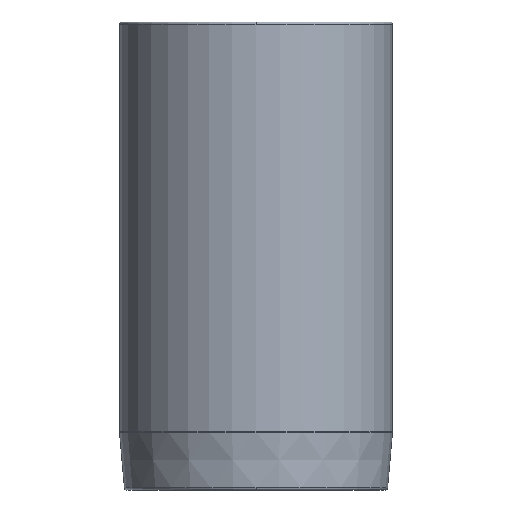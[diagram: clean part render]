
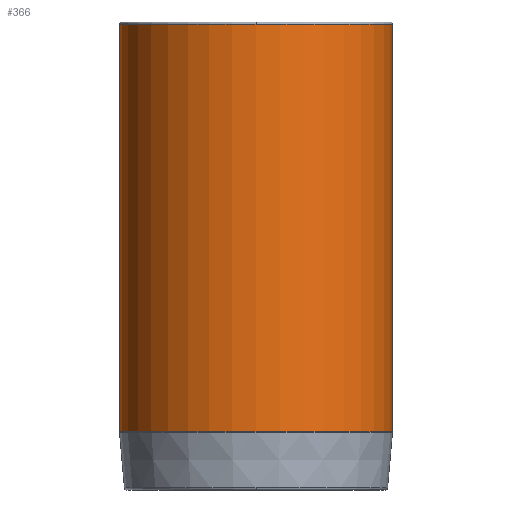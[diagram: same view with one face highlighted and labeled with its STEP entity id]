
A CAD part, front view. The second image highlights one B-rep face of the part: STEP entity #366.
In plain terms, the highlighted cylindrical face has radius 30.625 mm (diameter 61.25 mm), a partial arc.
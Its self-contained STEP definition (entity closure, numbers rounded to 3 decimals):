
#271=CARTESIAN_POINT('',(0.0,-30.625,53.5));
#272=VERTEX_POINT('',#271);
#298=CARTESIAN_POINT('',(-30.625,0.,53.5));
#299=VERTEX_POINT('',#298);
#307=CARTESIAN_POINT('',(0.0,0.,53.5));
#308=DIRECTION('',(0.0,0.0,1.0));
#309=DIRECTION('',(1.0,0.0,0.0));
#310=AXIS2_PLACEMENT_3D('',#307,#308,#309);
#311=CIRCLE('',#310,30.625);
#312=EDGE_CURVE('',#299,#272,#311,.T.);
#317=CARTESIAN_POINT('',(0.0,0.,7.772));
#318=DIRECTION('',(0.0,0.,1.0));
#319=DIRECTION('',(1.0,0.0,0.0));
#320=AXIS2_PLACEMENT_3D('',#317,#318,#319);
#321=CYLINDRICAL_SURFACE('',#320,30.625);
#322=CARTESIAN_POINT('',(30.625,0.,53.5));
#323=VERTEX_POINT('',#322);
#324=CARTESIAN_POINT('',(30.625,0.,-37.956));
#325=VERTEX_POINT('',#324);
#326=CARTESIAN_POINT('',(30.625,0.,53.5));
#327=DIRECTION('',(0.0,0.0,-1.0));
#328=VECTOR('',#327,91.456);
#329=LINE('',#326,#328);
#330=EDGE_CURVE('',#323,#325,#329,.T.);
#331=ORIENTED_EDGE('',*,*,#330,.F.);
#332=CARTESIAN_POINT('',(0.0,0.,53.5));
#333=DIRECTION('',(0.0,0.0,1.0));
#334=DIRECTION('',(1.0,0.0,0.0));
#335=AXIS2_PLACEMENT_3D('',#332,#333,#334);
#336=CIRCLE('',#335,30.625);
#337=EDGE_CURVE('',#272,#323,#336,.T.);
#338=ORIENTED_EDGE('',*,*,#337,.F.);
#339=ORIENTED_EDGE('',*,*,#312,.F.);
#340=CARTESIAN_POINT('',(-30.625,0.,-37.956));
#341=VERTEX_POINT('',#340);
#342=CARTESIAN_POINT('',(-30.625,0.,53.5));
#343=DIRECTION('',(0.0,0.0,-1.0));
#344=VECTOR('',#343,91.456);
#345=LINE('',#342,#344);
#346=EDGE_CURVE('',#299,#341,#345,.T.);
#347=ORIENTED_EDGE('',*,*,#346,.T.);
#348=CARTESIAN_POINT('',(0.0,-30.625,-37.956));
#349=VERTEX_POINT('',#348);
#350=CARTESIAN_POINT('',(0.0,0.,-37.956));
#351=DIRECTION('',(0.0,0.0,1.0));
#352=DIRECTION('',(1.0,0.0,0.0));
#353=AXIS2_PLACEMENT_3D('',#350,#351,#352);
#354=CIRCLE('',#353,30.625);
#355=EDGE_CURVE('',#341,#349,#354,.T.);
#356=ORIENTED_EDGE('',*,*,#355,.T.);
#357=CARTESIAN_POINT('',(0.0,0.,-37.956));
#358=DIRECTION('',(0.0,0.0,1.0));
#359=DIRECTION('',(1.0,0.0,0.0));
#360=AXIS2_PLACEMENT_3D('',#357,#358,#359);
#361=CIRCLE('',#360,30.625);
#362=EDGE_CURVE('',#349,#325,#361,.T.);
#363=ORIENTED_EDGE('',*,*,#362,.T.);
#364=EDGE_LOOP('',(#331,#338,#339,#347,#356,#363));
#365=FACE_OUTER_BOUND('',#364,.T.);
#366=ADVANCED_FACE('',(#365),#321,.T.);
